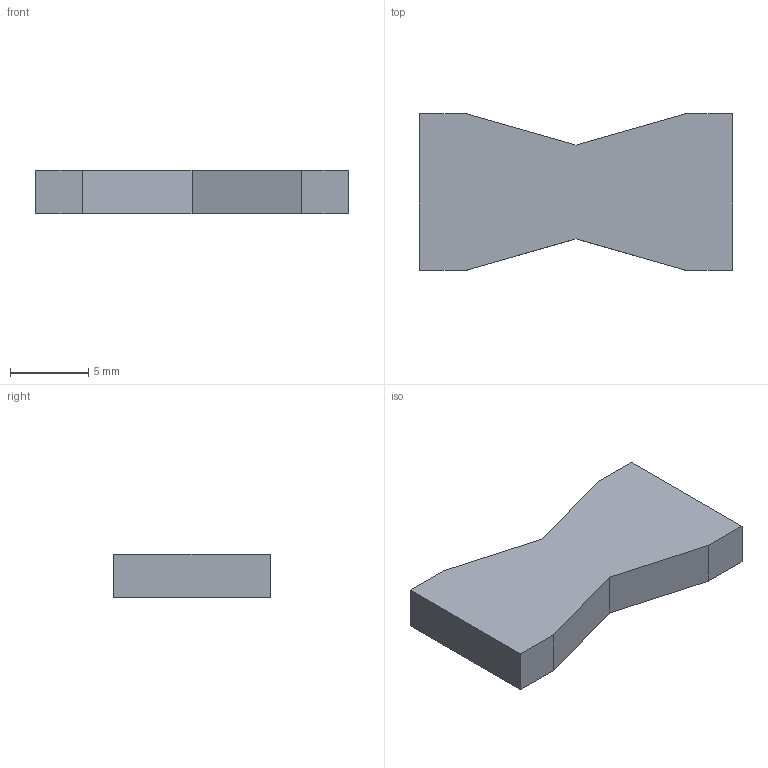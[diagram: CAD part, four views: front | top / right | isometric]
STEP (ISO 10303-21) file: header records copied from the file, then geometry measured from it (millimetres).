
FILE_DESCRIPTION(('Open CASCADE Model'),'2;1');
FILE_NAME('Open CASCADE Shape Model','2026-10-02T13:48:47',('Author'),( 'Open CASCADE'),'Open CASCADE STEP processor 7.8','Open CASCADE 7.8' ,'Unknown');
FILE_SCHEMA(('AUTOMOTIVE_DESIGN { 1 0 10303 214 1 1 1 1 }'));
Length unit declared in the file: millimetre
Products named in the file (1): Open CASCADE STEP translator 7.8 2
Bounding box: 20 x 10 x 2.8 mm (x, y, z)
Volume: 481.6 mm3; surface area: 515.1 mm2
Topology: 1 solids, 1 shells, 12 faces, 30 edges, 20 vertices
Faces by surface type: plane 12
Entity records: 754 total; most frequent: CARTESIAN_POINT 123, DIRECTION 116, LINE 90, VECTOR 90, ORIENTED_EDGE 60, PCURVE 60, DEFINITIONAL_REPRESENTATION 60, EDGE_CURVE 30
